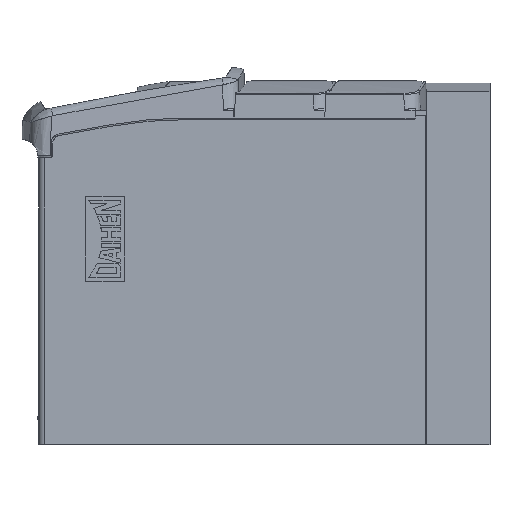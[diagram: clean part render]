
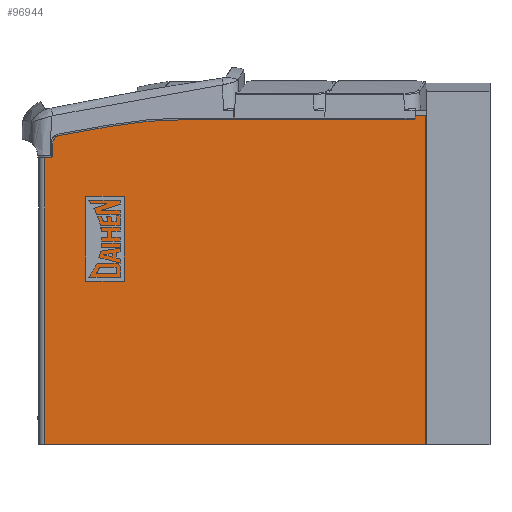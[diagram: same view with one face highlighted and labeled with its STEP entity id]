
A CAD part, left-side view. The second image highlights one B-rep face of the part: STEP entity #96944.
In plain terms, the highlighted planar face has unit normal (-1, 0, 0).
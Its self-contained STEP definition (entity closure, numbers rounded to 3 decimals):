
#1648 = FACE_OUTER_BOUND ( 'NONE', #51187, .T. ) ;
#2749 = LINE ( 'NONE', #95706, #11475 ) ;
#4401 = LINE ( 'NONE', #98090, #125166 ) ;
#6037 = EDGE_CURVE ( 'NONE', #111392, #110012, #101298, .T. ) ;
#9123 = DIRECTION ( 'NONE',  ( 0., 0.985, -0.17 ) ) ;
#10243 = EDGE_CURVE ( 'NONE', #53818, #42653, #64357, .T. ) ;
#11475 = VECTOR ( 'NONE', #97213, 1000. ) ;
#13175 = DIRECTION ( 'NONE',  ( -1., 0., 0. ) ) ;
#15433 = DIRECTION ( 'NONE',  ( 0., 0., 1. ) ) ;
#18977 = VERTEX_POINT ( 'NONE', #110738 ) ;
#23501 = VERTEX_POINT ( 'NONE', #112512 ) ;
#25266 = LINE ( 'NONE', #84450, #39138 ) ;
#37232 = VECTOR ( 'NONE', #122835, 1000. ) ;
#39138 = VECTOR ( 'NONE', #119781, 1000. ) ;
#42653 = VERTEX_POINT ( 'NONE', #50472 ) ;
#50472 = CARTESIAN_POINT ( 'NONE',  ( -351., 55.2, -560. ) ) ;
#51187 = EDGE_LOOP ( 'NONE', ( #87518, #97281, #53065, #59931, #83780, #90281, #115331 ) ) ;
#53065 = ORIENTED_EDGE ( 'NONE', *, *, #88114, .T. ) ;
#53818 = VERTEX_POINT ( 'NONE', #124030 ) ;
#59931 = ORIENTED_EDGE ( 'NONE', *, *, #68575, .T. ) ;
#62351 = VECTOR ( 'NONE', #67065, 1000. ) ;
#63016 = AXIS2_PLACEMENT_3D ( 'NONE', #120706, #13175, #15433 ) ;
#63607 = DIRECTION ( 'NONE',  ( 0., -1., 0. ) ) ;
#64357 = LINE ( 'NONE', #76683, #132751 ) ;
#67065 = DIRECTION ( 'NONE',  ( 0., 0., -1. ) ) ;
#68575 = EDGE_CURVE ( 'NONE', #18977, #53818, #138477, .T. ) ;
#69493 = VECTOR ( 'NONE', #9123, 1000. ) ;
#76683 = CARTESIAN_POINT ( 'NONE',  ( -351., 45.2, -560. ) ) ;
#76747 = LINE ( 'NONE', #102778, #37232 ) ;
#83780 = ORIENTED_EDGE ( 'NONE', *, *, #10243, .T. ) ;
#84450 = CARTESIAN_POINT ( 'NONE',  ( -351., 45.2, 28.981 ) ) ;
#86559 = EDGE_CURVE ( 'NONE', #110012, #23501, #4401, .T. ) ;
#87518 = ORIENTED_EDGE ( 'NONE', *, *, #6037, .T. ) ;
#88114 = EDGE_CURVE ( 'NONE', #23501, #18977, #25266, .T. ) ;
#89044 = EDGE_CURVE ( 'NONE', #42653, #109147, #76747, .T. ) ;
#90281 = ORIENTED_EDGE ( 'NONE', *, *, #89044, .T. ) ;
#95706 = CARTESIAN_POINT ( 'NONE',  ( -351., 45.2, 60. ) ) ;
#96944 = ADVANCED_FACE ( 'NONE', ( #1648 ), #142239, .T. ) ;
#97213 = DIRECTION ( 'NONE',  ( 0., 1., 0. ) ) ;
#97281 = ORIENTED_EDGE ( 'NONE', *, *, #86559, .T. ) ;
#98090 = CARTESIAN_POINT ( 'NONE',  ( -351., 759.2, -570. ) ) ;
#101298 = LINE ( 'NONE', #148164, #69493 ) ;
#102778 = CARTESIAN_POINT ( 'NONE',  ( -351., 55.2, -570. ) ) ;
#104462 = CARTESIAN_POINT ( 'NONE',  ( -351., 759.2, 30.722 ) ) ;
#109147 = VERTEX_POINT ( 'NONE', #139122 ) ;
#110012 = VERTEX_POINT ( 'NONE', #104462 ) ;
#110738 = CARTESIAN_POINT ( 'NONE',  ( -351., 773.2, 28.981 ) ) ;
#111392 = VERTEX_POINT ( 'NONE', #140857 ) ;
#112512 = CARTESIAN_POINT ( 'NONE',  ( -351., 759.2, 28.981 ) ) ;
#114140 = EDGE_CURVE ( 'NONE', #109147, #111392, #2749, .T. ) ;
#115331 = ORIENTED_EDGE ( 'NONE', *, *, #114140, .T. ) ;
#119781 = DIRECTION ( 'NONE',  ( 0., 1., 0. ) ) ;
#120706 = CARTESIAN_POINT ( 'NONE',  ( -351., 45.2, -570. ) ) ;
#122835 = DIRECTION ( 'NONE',  ( 0., 0., 1. ) ) ;
#124030 = CARTESIAN_POINT ( 'NONE',  ( -351., 773.2, -560. ) ) ;
#125166 = VECTOR ( 'NONE', #131180, 1000. ) ;
#131180 = DIRECTION ( 'NONE',  ( 0., 0., -1. ) ) ;
#132751 = VECTOR ( 'NONE', #63607, 1000. ) ;
#138477 = LINE ( 'NONE', #139972, #62351 ) ;
#139122 = CARTESIAN_POINT ( 'NONE',  ( -351., 55.2, 60. ) ) ;
#139972 = CARTESIAN_POINT ( 'NONE',  ( -351., 773.2, -570. ) ) ;
#140857 = CARTESIAN_POINT ( 'NONE',  ( -351., 589.2, 60. ) ) ;
#142239 = PLANE ( 'NONE',  #63016 ) ;
#148164 = CARTESIAN_POINT ( 'NONE',  ( -351., 589.2, 60. ) ) ;
